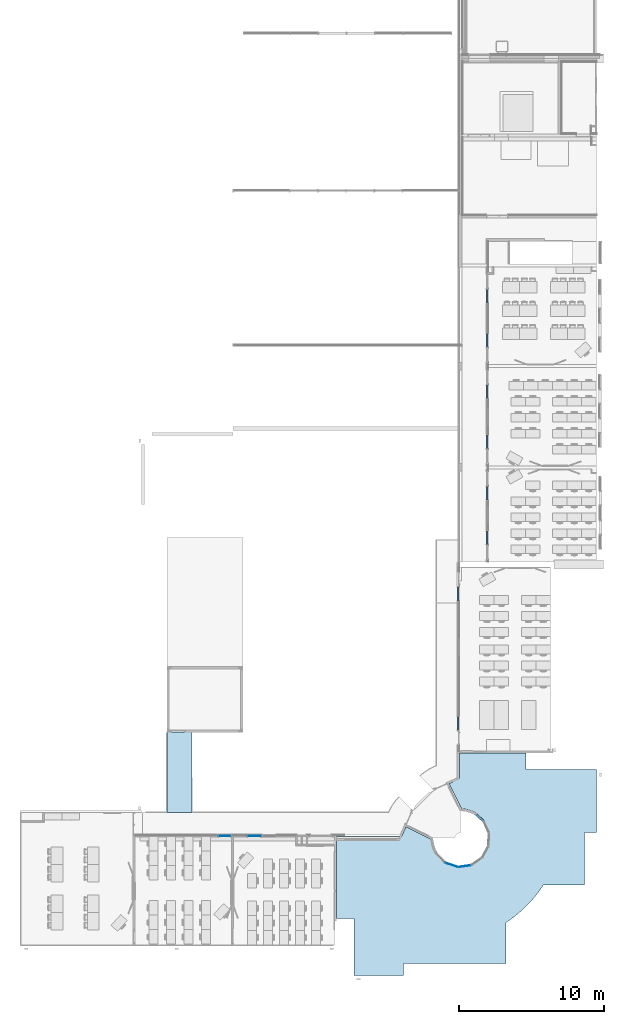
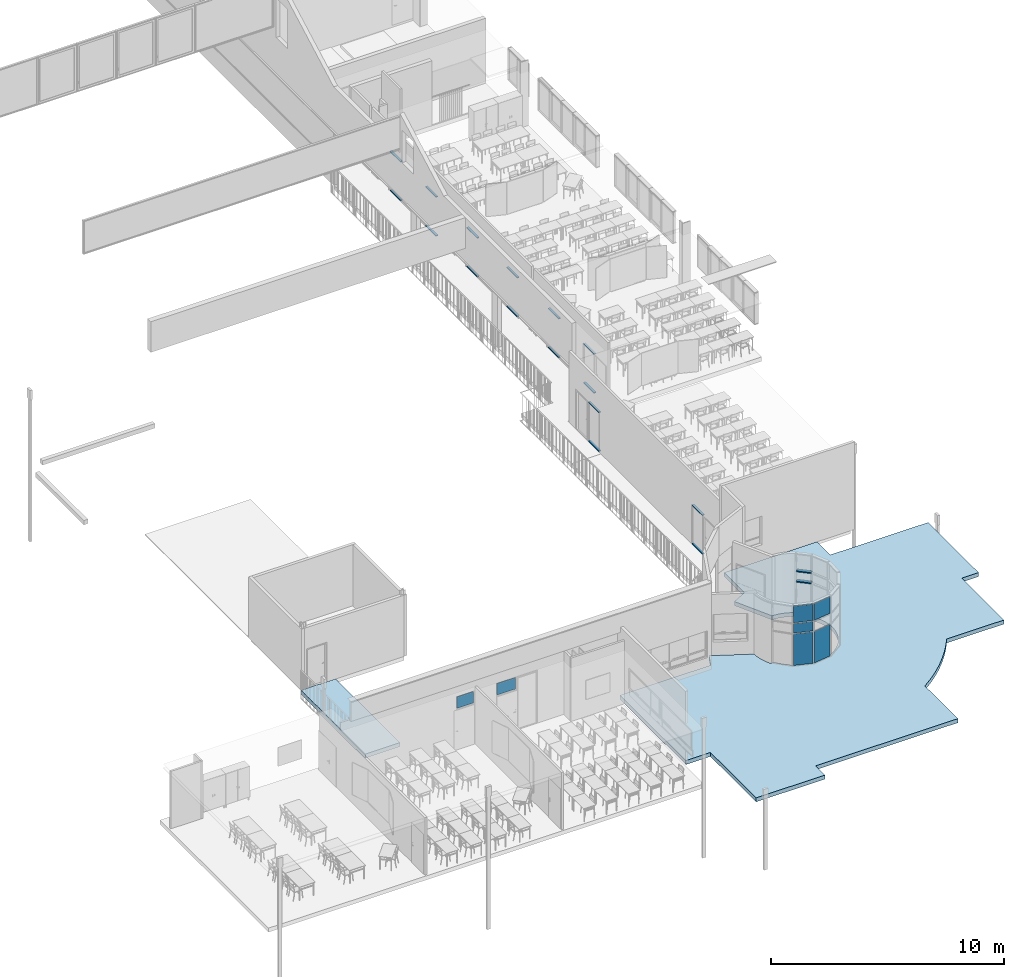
# One storey, part 14 of 44: 18 members, 9 plates, 2 slabs, 13 elements without a shape of their own.
"""IFC2X3 building model written with IfcOpenShell, lengths in centimetres."""

from ifc_helpers import new_model, entity, si_unit, converted_unit, derived_unit, direction, frame, frame_2d, origin, origin_2d_with_axis, place, context, subcontext, project, spatial, polyline, circle_curve, parameter, trimmed, segment, composite_curve, rectangle, outline, extrude, clip, bounded_halfspace, source, transform, mapped, material, layer, layer_set, layer_usage, type_object, type_shapes, element, aggregate, save


model = new_model("IFC2X3")

# Units and contexts
model_context = context("Model", 3, precision=0.001, world=origin(), true_north=direction((6.12303176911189e-17, 1.0)))
body_context = subcontext(model_context, "Body", "Model", "MODEL_VIEW")
ifc_project = project(units=[si_unit("LENGTHUNIT", "METRE", prefix="CENTI"), si_unit("AREAUNIT", "SQUARE_METRE"), si_unit("VOLUMEUNIT", "CUBIC_METRE"), converted_unit("PLANEANGLEUNIT", "DEGREE", entity("IfcRatioMeasure", 0.0174532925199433), si_unit("PLANEANGLEUNIT", "RADIAN"), dimensions=[0, 0, 0, 0, 0, 0, 0]), si_unit("MASSUNIT", "GRAM", prefix="KILO"), si_unit("TIMEUNIT", "SECOND"), si_unit("FREQUENCYUNIT", "HERTZ"), si_unit("THERMODYNAMICTEMPERATUREUNIT", "DEGREE_CELSIUS"), derived_unit("THERMALTRANSMITTANCEUNIT", [(si_unit("MASSUNIT", "GRAM", prefix="KILO"), 1), (si_unit("THERMODYNAMICTEMPERATUREUNIT", "KELVIN"), -1), (si_unit("TIMEUNIT", "SECOND"), -3)]), derived_unit("VOLUMETRICFLOWRATEUNIT", [(si_unit("LENGTHUNIT", "METRE"), 3), (si_unit("TIMEUNIT", "SECOND"), -1)]), si_unit("ELECTRICCURRENTUNIT", "AMPERE"), si_unit("ELECTRICVOLTAGEUNIT", "VOLT"), si_unit("POWERUNIT", "WATT"), si_unit("FORCEUNIT", "NEWTON", prefix="KILO"), si_unit("ILLUMINANCEUNIT", "LUX"), si_unit("LUMINOUSFLUXUNIT", "LUMEN"), si_unit("LUMINOUSINTENSITYUNIT", "CANDELA"), derived_unit("USERDEFINED", [(si_unit("MASSUNIT", "GRAM", prefix="KILO"), -1), (si_unit("LENGTHUNIT", "METRE"), -2), (si_unit("TIMEUNIT", "SECOND"), 3), (si_unit("LUMINOUSFLUXUNIT", "LUMEN"), 1)]), derived_unit("LINEARVELOCITYUNIT", [(si_unit("LENGTHUNIT", "METRE"), 1), (si_unit("TIMEUNIT", "SECOND"), -1)]), si_unit("PRESSUREUNIT", "PASCAL"), derived_unit("USERDEFINED", [(si_unit("LENGTHUNIT", "METRE"), -2), (si_unit("MASSUNIT", "GRAM", prefix="KILO"), 1), (si_unit("TIMEUNIT", "SECOND"), -2)])], contexts=[model_context])

# Site, building, storey
site_placement = place(None, frame((8.62739174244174, -249.285249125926, 0.0)))
site = spatial("IfcSite", under=ifc_project, at=site_placement, Name="Default", CompositionType="ELEMENT")
building_placement = place(site_placement, origin())
building = spatial("IfcBuilding", under=site, at=building_placement, CompositionType="ELEMENT")
storey_placement = place(building_placement, frame((0.0, 0.0, 343.0)))
storey = spatial("IfcBuildingStorey", under=building, at=storey_placement, Name="R+1", CompositionType="ELEMENT", Elevation=343.0)

# Curtain wall, members
curtain_wall_type_1 = type_object("IfcCurtainWallType", Name="Mur-rideau:1 m x 1 m - Meneaux", PredefinedType="NOTDEFINED")
curtain_wall_1_placement = place(storey_placement, frame((0.0, 0.0, -343.0)))
curtain_wall_1 = element("IfcCurtainWall", 1, at=curtain_wall_1_placement, inside=storey, type_object=curtain_wall_type_1, Name="Mur-rideau:1 m x 1 m - Meneaux", ObjectType="Mur-rideau:1 m x 1 m - Meneaux")
ifc_material_1 = material(Name="Plastique, blanc opaque")
member_1_placement = place(curtain_wall_1_placement, frame((0.0, 0.0, 343.0)))
member_1 = element("IfcMember", 2, at=member_1_placement, material=ifc_material_1, Name="Mur-rideau:1 m x 1 m - Meneaux:661", ObjectType="Mur-rideau:1 m x 1 m - Meneaux:661", context=body_context, shape_type="Clipping", body=[
    clip(clip(clip(clip(extrude(rectangle(XDim=4.99999999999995, YDim=14.9999999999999, at=frame_2d((0.0, -3.99680288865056e-14), x_axis=(1.0, 0.0))), frame((3149.88515648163, 917.379609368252, 226.0), z_axis=(0.74286989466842, -0.669435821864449, 0.0), x_axis=(0.0, 0.0, -1.0)), (0.0, 0.0, 1.0), 65.897388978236), bounded_halfspace(frame((3191.87727141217, 870.226880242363, 226.0), z_axis=(0.608123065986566, -0.793842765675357, 0.0), x_axis=(0.793842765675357, 0.608123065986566, 0.0)), False, frame((3149.88515648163, 917.379609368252, 226.0), z_axis=(0.74286989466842, -0.669435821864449, 0.0), x_axis=(0.0, 0.0, -1.0)), polyline([(-2.49999999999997, 7.49999999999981), (-2.49999999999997, -6.91731694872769), (0.0, -6.91731694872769), (0.0, 7.49999999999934), (-2.49999999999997, 7.49999999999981)]))), bounded_halfspace(frame((3194.9178867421, 866.257666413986, 226.0), z_axis=(0.793842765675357, 0.608123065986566, 0.0), x_axis=(0.608123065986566, -0.793842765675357, 0.0)), False, frame((3149.88515648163, 917.379609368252, 226.0), z_axis=(0.74286989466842, -0.669435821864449, 0.0), x_axis=(0.0, 0.0, -1.0)), polyline([(-2.49999999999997, -6.91731694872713), (-2.49999999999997, -7.50000000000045), (0.0, -7.49999999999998), (0.0, -6.91731694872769), (-2.49999999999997, -6.91731694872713)]))), bounded_halfspace(frame((3191.87727141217, 870.226880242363, 172.0), z_axis=(0.608123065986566, -0.793842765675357, 0.0), x_axis=(0.793842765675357, 0.608123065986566, 0.0)), False, frame((3149.88515648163, 917.379609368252, 226.0), z_axis=(0.74286989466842, -0.669435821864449, 0.0), x_axis=(0.0, 0.0, -1.0)), polyline([(2.49999999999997, -6.9173169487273), (2.49999999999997, 7.49999999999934), (0.0, 7.49999999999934), (0.0, -6.91731694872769), (2.49999999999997, -6.9173169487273)]))), bounded_halfspace(frame((3194.9178867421, 866.257666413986, 172.0), z_axis=(0.793842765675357, 0.608123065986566, 0.0), x_axis=(0.608123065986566, -0.793842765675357, 0.0)), False, frame((3149.88515648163, 917.379609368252, 226.0), z_axis=(0.74286989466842, -0.669435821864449, 0.0), x_axis=(0.0, 0.0, -1.0)), polyline([(0.0, -7.50000000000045), (2.49999999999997, -7.50000000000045), (2.49999999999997, -6.91731694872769), (0.0, -6.91731694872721), (0.0, -7.50000000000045)]))),
])
member_2_placement = place(curtain_wall_1_placement, frame((0.0, 0.0, 343.0)))
member_2 = element("IfcMember", 3, at=member_2_placement, material=ifc_material_1, Name="Mur-rideau:1 m x 1 m - Meneaux:661", ObjectType="Mur-rideau:1 m x 1 m - Meneaux:661", context=body_context, shape_type="Clipping", body=[
    clip(clip(clip(clip(extrude(rectangle(XDim=4.99999999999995, YDim=14.9999999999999, at=frame_2d((0.0, -3.99680288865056e-14), x_axis=(1.0, 0.0))), frame((3149.88515648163, 917.379609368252, 172.0), z_axis=(0.74286989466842, -0.669435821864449, 0.0), x_axis=(0.0, 0.0, -1.0)), (0.0, 0.0, 1.0), 65.897388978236), bounded_halfspace(frame((3191.87727141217, 870.226880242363, 172.0), z_axis=(0.608123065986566, -0.793842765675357, 0.0), x_axis=(0.793842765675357, 0.608123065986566, 0.0)), False, frame((3149.88515648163, 917.379609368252, 172.0), z_axis=(0.74286989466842, -0.669435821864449, 0.0), x_axis=(0.0, 0.0, -1.0)), polyline([(-2.49999999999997, 7.49999999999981), (-2.49999999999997, -6.91731694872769), (0.0, -6.91731694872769), (0.0, 7.49999999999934), (-2.49999999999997, 7.49999999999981)]))), bounded_halfspace(frame((3194.9178867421, 866.257666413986, 172.0), z_axis=(0.793842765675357, 0.608123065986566, 0.0), x_axis=(0.608123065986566, -0.793842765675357, 0.0)), False, frame((3149.88515648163, 917.379609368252, 172.0), z_axis=(0.74286989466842, -0.669435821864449, 0.0), x_axis=(0.0, 0.0, -1.0)), polyline([(-2.49999999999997, -6.91731694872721), (-2.50000000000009, -7.50000000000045), (0.0, -7.49999999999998), (0.0, -6.91731694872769), (-2.49999999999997, -6.91731694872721)]))), bounded_halfspace(frame((3191.87727141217, 870.226880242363, 5.0), z_axis=(0.608123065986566, -0.793842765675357, 0.0), x_axis=(0.793842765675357, 0.608123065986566, 0.0)), False, frame((3149.88515648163, 917.379609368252, 172.0), z_axis=(0.74286989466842, -0.669435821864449, 0.0), x_axis=(0.0, 0.0, -1.0)), polyline([(2.49999999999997, -6.9173169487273), (2.50000000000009, 7.49999999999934), (0.0, 7.49999999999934), (0.0, -6.91731694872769), (2.49999999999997, -6.9173169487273)]))), bounded_halfspace(frame((3194.9178867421, 866.257666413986, 5.0), z_axis=(0.793842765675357, 0.608123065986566, 0.0), x_axis=(0.608123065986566, -0.793842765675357, 0.0)), False, frame((3149.88515648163, 917.379609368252, 172.0), z_axis=(0.74286989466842, -0.669435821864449, 0.0), x_axis=(0.0, 0.0, -1.0)), polyline([(0.0, -7.50000000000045), (2.49999999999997, -7.50000000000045), (2.49999999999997, -6.91731694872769), (0.0, -6.91731694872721), (0.0, -7.50000000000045)]))),
])

curtain_wall_type_2 = type_object("IfcCurtainWallType", Name="Mur-rideau:Simple panneau", PredefinedType="NOTDEFINED")
curtain_wall_2_placement = place(storey_placement, frame((0.0, 0.0, -343.0)))
curtain_wall_2 = element("IfcCurtainWall", 4, at=curtain_wall_2_placement, inside=storey, type_object=curtain_wall_type_2, Name="Mur-rideau:Simple panneau", ObjectType="Mur-rideau:Simple panneau")
member_3_placement = place(curtain_wall_2_placement, frame((0.0, 0.0, 343.0)))
member_3 = element("IfcMember", 5, at=member_3_placement, material=ifc_material_1, Name="Mur-rideau:Simple panneau", ObjectType="Mur-rideau:Simple panneau", context=body_context, shape_type="SweptSolid", body=[
    extrude(rectangle(XDim=4.99999999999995, YDim=10.0000000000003, at=origin_2d_with_axis()), frame((3224.90482780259, 4222.18519336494, 206.0), z_axis=(0.0, -1.0, 0.0), x_axis=(0.0, 0.0, -1.0)), (0.0, 0.0, 1.0), 90.0000000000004),
])
member_4_placement = place(curtain_wall_2_placement, frame((0.0, 0.0, 343.0)))
member_4 = element("IfcMember", 6, at=member_4_placement, material=ifc_material_1, Name="Mur-rideau:Simple panneau", ObjectType="Mur-rideau:Simple panneau", context=body_context, shape_type="SweptSolid", body=[
    extrude(rectangle(XDim=5.0, YDim=10.0000000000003, at=frame_2d((-2.70894418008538e-14, 0.0), x_axis=(1.0, 0.0))), frame((3224.90482780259, 4132.18519336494, 2.49999999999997), z_axis=(0.0, 1.0, 0.0), x_axis=(0.0, 0.0, -1.0)), (0.0, 0.0, 1.0), 90.0000000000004),
])
aggregate(curtain_wall_2, [member_3, member_4])

curtain_wall_3_placement = place(storey_placement, frame((0.0, 0.0, -343.0)))
curtain_wall_3 = element("IfcCurtainWall", 7, at=curtain_wall_3_placement, inside=storey, type_object=curtain_wall_type_2, Name="Mur-rideau:Simple panneau", ObjectType="Mur-rideau:Simple panneau")
member_5_placement = place(curtain_wall_3_placement, frame((0.0, 0.0, 343.0)))
member_5 = element("IfcMember", 8, at=member_5_placement, material=ifc_material_1, Name="Mur-rideau:Simple panneau", ObjectType="Mur-rideau:Simple panneau", context=body_context, shape_type="SweptSolid", body=[
    extrude(rectangle(XDim=4.99999999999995, YDim=10.0000000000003, at=origin_2d_with_axis()), frame((3224.90482780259, 3525.18519336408, 206.0), z_axis=(0.0, -1.0, 0.0), x_axis=(0.0, 0.0, -1.0)), (0.0, 0.0, 1.0), 90.0000000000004),
])
member_6_placement = place(curtain_wall_3_placement, frame((0.0, 0.0, 343.0)))
member_6 = element("IfcMember", 9, at=member_6_placement, material=ifc_material_1, Name="Mur-rideau:Simple panneau", ObjectType="Mur-rideau:Simple panneau", context=body_context, shape_type="SweptSolid", body=[
    extrude(rectangle(XDim=5.0, YDim=10.0000000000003, at=frame_2d((-2.70894418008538e-14, 0.0), x_axis=(1.0, 0.0))), frame((3224.90482780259, 3435.18519336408, 2.49999999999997), z_axis=(0.0, 1.0, 0.0), x_axis=(0.0, 0.0, -1.0)), (0.0, 0.0, 1.0), 90.0000000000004),
])
aggregate(curtain_wall_3, [member_5, member_6])

curtain_wall_4_placement = place(storey_placement, frame((0.0, 0.0, -343.0)))
curtain_wall_4 = element("IfcCurtainWall", 10, at=curtain_wall_4_placement, inside=storey, type_object=curtain_wall_type_2, Name="Mur-rideau:Simple panneau", ObjectType="Mur-rideau:Simple panneau")
member_7_placement = place(curtain_wall_4_placement, frame((0.0, 0.0, 343.0)))
member_7 = element("IfcMember", 11, at=member_7_placement, material=ifc_material_1, Name="Mur-rideau:Simple panneau", ObjectType="Mur-rideau:Simple panneau", context=body_context, shape_type="SweptSolid", body=[
    extrude(rectangle(XDim=4.99999999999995, YDim=10.0000000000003, at=origin_2d_with_axis()), frame((3224.90482780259, 2866.98020806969, 206.0), z_axis=(0.0, -1.0, 0.0), x_axis=(0.0, 0.0, -1.0)), (0.0, 0.0, 1.0), 90.0000000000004),
])
member_8_placement = place(curtain_wall_4_placement, frame((0.0, 0.0, 343.0)))
member_8 = element("IfcMember", 12, at=member_8_placement, material=ifc_material_1, Name="Mur-rideau:Simple panneau", ObjectType="Mur-rideau:Simple panneau", context=body_context, shape_type="SweptSolid", body=[
    extrude(rectangle(XDim=5.0, YDim=10.0000000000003, at=frame_2d((-2.70894418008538e-14, 0.0), x_axis=(1.0, 0.0))), frame((3224.90482780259, 2776.98020806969, 2.49999999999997), z_axis=(0.0, 1.0, 0.0), x_axis=(0.0, 0.0, -1.0)), (0.0, 0.0, 1.0), 90.0000000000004),
])
aggregate(curtain_wall_4, [member_7, member_8])

curtain_wall_5_placement = place(storey_placement, frame((0.0, 0.0, -343.0)))
curtain_wall_5 = element("IfcCurtainWall", 13, at=curtain_wall_5_placement, inside=storey, type_object=curtain_wall_type_2, Name="Mur-rideau:Simple panneau", ObjectType="Mur-rideau:Simple panneau")
member_9_placement = place(curtain_wall_5_placement, frame((0.0, 0.0, 343.0)))
member_9 = element("IfcMember", 14, at=member_9_placement, material=ifc_material_1, Name="Mur-rideau:Simple panneau", ObjectType="Mur-rideau:Simple panneau", context=body_context, shape_type="SweptSolid", body=[
    extrude(rectangle(XDim=4.99999999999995, YDim=10.0000000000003, at=origin_2d_with_axis()), frame((3224.90482780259, 3171.18519336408, 206.0), z_axis=(0.0, -1.0, 0.0), x_axis=(0.0, 0.0, -1.0)), (0.0, 0.0, 1.0), 90.0000000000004),
])
member_10_placement = place(curtain_wall_5_placement, frame((0.0, 0.0, 343.0)))
member_10 = element("IfcMember", 15, at=member_10_placement, material=ifc_material_1, Name="Mur-rideau:Simple panneau", ObjectType="Mur-rideau:Simple panneau", context=body_context, shape_type="SweptSolid", body=[
    extrude(rectangle(XDim=5.0, YDim=10.0000000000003, at=frame_2d((-2.70894418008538e-14, 0.0), x_axis=(1.0, 0.0))), frame((3224.90482780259, 3081.18519336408, 2.49999999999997), z_axis=(0.0, 1.0, 0.0), x_axis=(0.0, 0.0, -1.0)), (0.0, 0.0, 1.0), 90.0000000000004),
])
aggregate(curtain_wall_5, [member_9, member_10])

curtain_wall_6_placement = place(storey_placement, frame((0.0, 0.0, -343.0)))
curtain_wall_6 = element("IfcCurtainWall", 16, at=curtain_wall_6_placement, inside=storey, type_object=curtain_wall_type_2, Name="Mur-rideau:Simple panneau", ObjectType="Mur-rideau:Simple panneau")
member_11_placement = place(curtain_wall_6_placement, frame((0.0, 0.0, 343.0)))
member_11 = element("IfcMember", 17, at=member_11_placement, material=ifc_material_1, Name="Mur-rideau:Simple panneau", ObjectType="Mur-rideau:Simple panneau", context=body_context, shape_type="SweptSolid", body=[
    extrude(rectangle(XDim=4.99999999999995, YDim=10.0000000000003, at=origin_2d_with_axis()), frame((3224.90482780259, 3868.18519336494, 206.0), z_axis=(0.0, -1.0, 0.0), x_axis=(0.0, 0.0, -1.0)), (0.0, 0.0, 1.0), 90.0000000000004),
])
member_12_placement = place(curtain_wall_6_placement, frame((0.0, 0.0, 343.0)))
member_12 = element("IfcMember", 18, at=member_12_placement, material=ifc_material_1, Name="Mur-rideau:Simple panneau", ObjectType="Mur-rideau:Simple panneau", context=body_context, shape_type="SweptSolid", body=[
    extrude(rectangle(XDim=5.0, YDim=10.0000000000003, at=frame_2d((-2.70894418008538e-14, 0.0), x_axis=(1.0, 0.0))), frame((3224.90482780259, 3778.18519336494, 2.49999999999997), z_axis=(0.0, 1.0, 0.0), x_axis=(0.0, 0.0, -1.0)), (0.0, 0.0, 1.0), 90.0000000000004),
])
aggregate(curtain_wall_6, [member_11, member_12])

curtain_wall_7_placement = place(storey_placement, frame((0.0, 0.0, -343.0)))
curtain_wall_7 = element("IfcCurtainWall", 19, at=curtain_wall_7_placement, inside=storey, type_object=curtain_wall_type_2, Name="Mur-rideau:Simple panneau", ObjectType="Mur-rideau:Simple panneau")
member_13_placement = place(curtain_wall_7_placement, frame((0.0, 0.0, 343.0)))
member_13 = element("IfcMember", 20, at=member_13_placement, material=ifc_material_1, Name="Mur-rideau:Simple panneau", ObjectType="Mur-rideau:Simple panneau", context=body_context, shape_type="SweptSolid", body=[
    extrude(rectangle(XDim=4.99999999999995, YDim=10.0000000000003, at=origin_2d_with_axis()), frame((3224.90482780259, 4526.48020813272, 206.0), z_axis=(0.0, -1.0, 0.0), x_axis=(0.0, 0.0, -1.0)), (0.0, 0.0, 1.0), 90.0000000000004),
])
member_14_placement = place(curtain_wall_7_placement, frame((0.0, 0.0, 343.0)))
member_14 = element("IfcMember", 21, at=member_14_placement, material=ifc_material_1, Name="Mur-rideau:Simple panneau", ObjectType="Mur-rideau:Simple panneau", context=body_context, shape_type="SweptSolid", body=[
    extrude(rectangle(XDim=5.0, YDim=10.0000000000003, at=frame_2d((-2.70894418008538e-14, 0.0), x_axis=(1.0, 0.0))), frame((3224.90482780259, 4436.48020813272, 2.49999999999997), z_axis=(0.0, 1.0, 0.0), x_axis=(0.0, 0.0, -1.0)), (0.0, 0.0, 1.0), 90.0000000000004),
])
aggregate(curtain_wall_7, [member_13, member_14])

curtain_wall_8_placement = place(storey_placement, frame((0.0, 0.0, -343.0)))
curtain_wall_8 = element("IfcCurtainWall", 22, at=curtain_wall_8_placement, inside=storey, type_object=curtain_wall_type_2, Name="Mur-rideau:Simple panneau", ObjectType="Mur-rideau:Simple panneau")
member_15_placement = place(curtain_wall_8_placement, frame((0.0, 0.0, 343.0)))
member_15 = element("IfcMember", 23, at=member_15_placement, material=ifc_material_1, Name="Mur-rideau:Simple panneau", ObjectType="Mur-rideau:Simple panneau", context=body_context, shape_type="SweptSolid", body=[
    extrude(rectangle(XDim=4.99999999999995, YDim=10.0000000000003, at=frame_2d((0.0, 4.33431068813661e-13), x_axis=(1.0, 0.0))), frame((3024.98509457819, 2478.9805010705, 206.0), z_axis=(0.0, -1.0, 0.0), x_axis=(0.0, 0.0, -1.0)), (0.0, 0.0, 1.0), 90.0000000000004),
])
member_16_placement = place(curtain_wall_8_placement, frame((0.0, 0.0, 343.0)))
member_16 = element("IfcMember", 24, at=member_16_placement, material=ifc_material_1, Name="Mur-rideau:Simple panneau", ObjectType="Mur-rideau:Simple panneau", context=body_context, shape_type="SweptSolid", body=[
    extrude(rectangle(XDim=5.0, YDim=10.0000000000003, at=frame_2d((-2.70894418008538e-14, 0.0), x_axis=(1.0, 0.0))), frame((3024.98509457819, 2388.9805010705, 2.49999999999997), z_axis=(0.0, 1.0, 0.0), x_axis=(0.0, 0.0, -1.0)), (0.0, 0.0, 1.0), 90.0000000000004),
])
aggregate(curtain_wall_8, [member_15, member_16])

curtain_wall_9_placement = place(storey_placement, frame((0.0, 0.0, -343.0)))
curtain_wall_9 = element("IfcCurtainWall", 25, at=curtain_wall_9_placement, inside=storey, type_object=curtain_wall_type_2, Name="Mur-rideau:Simple panneau", ObjectType="Mur-rideau:Simple panneau")
member_17_placement = place(curtain_wall_9_placement, frame((0.0, 0.0, 343.0)))
member_17 = element("IfcMember", 26, at=member_17_placement, material=ifc_material_1, Name="Mur-rideau:Simple panneau", ObjectType="Mur-rideau:Simple panneau", context=body_context, shape_type="SweptSolid", body=[
    extrude(rectangle(XDim=4.99999999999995, YDim=10.0000000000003, at=origin_2d_with_axis()), frame((3024.98509457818, 1591.29782577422, 206.0), z_axis=(0.0, -1.0, 0.0), x_axis=(0.0, 0.0, -1.0)), (0.0, 0.0, 1.0), 90.0000000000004),
])
member_18_placement = place(curtain_wall_9_placement, frame((0.0, 0.0, 343.0)))
member_18 = element("IfcMember", 27, at=member_18_placement, material=ifc_material_1, Name="Mur-rideau:Simple panneau", ObjectType="Mur-rideau:Simple panneau", context=body_context, shape_type="SweptSolid", body=[
    extrude(rectangle(XDim=5.0, YDim=10.0000000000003, at=frame_2d((-2.70894418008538e-14, 0.0), x_axis=(1.0, 0.0))), frame((3024.98509457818, 1501.29782577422, 2.49999999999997), z_axis=(0.0, 1.0, 0.0), x_axis=(0.0, 0.0, -1.0)), (0.0, 0.0, 1.0), 90.0000000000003),
])
aggregate(curtain_wall_9, [member_17, member_18])

# Plate
ifc_material_2 = material(Name="Verre")
plate_type_1 = type_object("IfcPlateType", Name="Vitré", PredefinedType="CURTAIN_PANEL", material=ifc_material_2)
shared_shape_1 = source(origin(), body_context, "Body", "SweptSolid", [
    extrude(rectangle(XDim=4.0, YDim=84.9999999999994, at=frame_2d((0.0, -2.48689957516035e-14), x_axis=(1.0, 0.0))), frame((0.0, -2.50000000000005, 0.0), z_axis=(0.0, 0.0, 1.0), x_axis=(0.0, 1.0, 0.0)), (0.0, 0.0, 1.0), 164.5),
])
type_shapes(plate_type_1, [shared_shape_1])
plate_1_placement = place(curtain_wall_1_placement, frame((2983.07138134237, 572.757245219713, 348.0), z_axis=(0.0, 0.0, 1.0), x_axis=(0.948048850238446, -0.318124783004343, 0.0)))
plate_1 = element("IfcPlate", 28, at=plate_1_placement, type_object=plate_type_1, material=ifc_material_2, Name="Panneau système:Vitré", ObjectType="Vitré", context=body_context, shape_type="MappedRepresentation", body=[
    mapped(shared_shape_1, transform((0.0, 0.0, 0.0), scale=1.0)),
])

plate_2_placement = place(curtain_wall_1_placement, frame((3070.29602214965, 564.701718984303, 348.0), z_axis=(0.0, 0.0, 1.0), x_axis=(0.990276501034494, 0.139113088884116, 0.0)))
plate_2 = element("IfcPlate", 29, at=plate_2_placement, type_object=plate_type_1, material=ifc_material_2, Name="Panneau système:Vitré", ObjectType="Vitré", context=body_context, shape_type="MappedRepresentation", body=[
    mapped(shared_shape_1, transform((0.0, 0.0, 0.0), scale=1.0)),
])

plate_type_2 = type_object("IfcPlateType", Name="Vitré", PredefinedType="CURTAIN_PANEL", material=ifc_material_2)
shared_shape_2 = source(origin(), body_context, "Body", "SweptSolid", [
    extrude(rectangle(XDim=4.0, YDim=84.9999999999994, at=frame_2d((0.0, -2.48689957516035e-14), x_axis=(1.0, 0.0))), frame((0.0, -2.50000000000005, 0.0), z_axis=(0.0, 0.0, 1.0), x_axis=(0.0, 1.0, 0.0)), (0.0, 0.0, 1.0), 49.0),
])
type_shapes(plate_type_2, [shared_shape_2])
plate_3_placement = place(curtain_wall_1_placement, frame((2983.07138134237, 572.757245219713, 517.5), z_axis=(0.0, 0.0, 1.0), x_axis=(0.948048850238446, -0.318124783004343, 0.0)))
plate_3 = element("IfcPlate", 30, at=plate_3_placement, type_object=plate_type_2, material=ifc_material_2, Name="Panneau système:Vitré", ObjectType="Vitré", context=body_context, shape_type="MappedRepresentation", body=[
    mapped(shared_shape_2, transform((0.0, 0.0, 0.0), scale=1.0)),
])

ifc_material_3 = material(Name="Par défaut")
plate_type_3 = type_object("IfcPlateType", Name="Plein", PredefinedType="CURTAIN_PANEL", material=ifc_material_3)
shared_shape_3 = source(origin(), body_context, "Body", "SweptSolid", [
    extrude(rectangle(XDim=4.0, YDim=84.9999999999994, at=frame_2d((0.0, -2.48689957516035e-14), x_axis=(1.0, 0.0))), frame((0.0, -2.50000000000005, 0.0), z_axis=(0.0, 0.0, 1.0), x_axis=(0.0, 1.0, 0.0)), (0.0, 0.0, 1.0), 86.5),
])
type_shapes(plate_type_3, [shared_shape_3])
plate_4_placement = place(curtain_wall_1_placement, frame((2983.07138134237, 572.757245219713, 571.5), z_axis=(0.0, 0.0, 1.0), x_axis=(0.948048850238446, -0.318124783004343, 0.0)))
plate_4 = element("IfcPlate", 31, at=plate_4_placement, type_object=plate_type_3, material=ifc_material_3, Name="Panneau système:Plein", ObjectType="Plein", context=body_context, shape_type="MappedRepresentation", body=[
    mapped(shared_shape_3, transform((0.0, 0.0, 0.0), scale=1.0)),
])

plate_5_placement = place(curtain_wall_1_placement, frame((3070.29602214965, 564.701718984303, 571.5), z_axis=(0.0, 0.0, 1.0), x_axis=(0.990276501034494, 0.139113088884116, 0.0)))
plate_5 = element("IfcPlate", 32, at=plate_5_placement, type_object=plate_type_3, material=ifc_material_3, Name="Panneau système:Plein", ObjectType="Plein", context=body_context, shape_type="MappedRepresentation", body=[
    mapped(shared_shape_3, transform((0.0, 0.0, 0.0), scale=1.0)),
])

aggregate(curtain_wall_1, [plate_1, plate_2, plate_3, plate_4, plate_5, member_1, member_2])

# Curtain wall, plate
curtain_wall_10_placement = place(storey_placement, frame((0.0, 0.0, -343.0)))
curtain_wall_10 = element("IfcCurtainWall", 33, at=curtain_wall_10_placement, inside=storey, type_object=curtain_wall_type_2, Name="Mur-rideau:Simple panneau", ObjectType="Mur-rideau:Simple panneau")
plate_type_4 = type_object("IfcPlateType", Name="Vitré", PredefinedType="CURTAIN_PANEL", material=ifc_material_2)
shared_shape_4 = source(origin(), body_context, "Body", "SweptSolid", [
    extrude(rectangle(XDim=4.0, YDim=81.9506441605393, at=frame_2d((-4.44089209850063e-16, 0.0), x_axis=(1.0, 0.0))), frame((0.0, 2.50000000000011, 0.0), z_axis=(0.0, 0.0, 1.0), x_axis=(0.0, 1.0, 0.0)), (0.0, 0.0, 1.0), 59.4999999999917),
])
type_shapes(plate_type_4, [shared_shape_4])
plate_6_placement = place(curtain_wall_10_placement, frame((1422.9301498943, 772.998568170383, 556.499999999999), z_axis=(0.0, 0.0, 1.0), x_axis=(-1.0, 0.0, 0.0)))
plate_6 = element("IfcPlate", 34, at=plate_6_placement, type_object=plate_type_4, material=ifc_material_2, Name="Panneau système:Vitré", ObjectType="Vitré", context=body_context, shape_type="MappedRepresentation", body=[
    mapped(shared_shape_4, transform((0.0, 0.0, 0.0), scale=1.0)),
])
aggregate(curtain_wall_10, [plate_6])

curtain_wall_11_placement = place(storey_placement, frame((0.0, 0.0, -343.0)))
curtain_wall_11 = element("IfcCurtainWall", 35, at=curtain_wall_11_placement, inside=storey, type_object=curtain_wall_type_2, Name="Mur-rideau:Simple panneau", ObjectType="Mur-rideau:Simple panneau")
plate_7_placement = place(curtain_wall_11_placement, frame((1422.9301498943, 772.998568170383, 556.499999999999), z_axis=(0.0, 0.0, 1.0), x_axis=(-1.0, 0.0, 0.0)))
plate_7 = element("IfcPlate", 36, at=plate_7_placement, type_object=plate_type_4, material=ifc_material_2, Name="Panneau système:Vitré", ObjectType="Vitré", context=body_context, shape_type="MappedRepresentation", body=[
    mapped(shared_shape_4, transform((0.0, 0.0, 0.0), scale=1.0)),
])
aggregate(curtain_wall_11, [plate_7])

curtain_wall_12_placement = place(storey_placement, frame((0.0, 0.0, -343.0)))
curtain_wall_12 = element("IfcCurtainWall", 37, at=curtain_wall_12_placement, inside=storey, type_object=curtain_wall_type_2, Name="Mur-rideau:Simple panneau", ObjectType="Mur-rideau:Simple panneau")
plate_type_5 = type_object("IfcPlateType", Name="Vitré", PredefinedType="CURTAIN_PANEL", material=ifc_material_2)
shared_shape_5 = source(origin(), body_context, "Body", "SweptSolid", [
    extrude(rectangle(XDim=4.0, YDim=91.9999999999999, at=origin_2d_with_axis()), frame((0.0, -2.5, 0.0), z_axis=(0.0, 0.0, 1.0), x_axis=(0.0, 1.0, 0.0)), (0.0, 0.0, 1.0), 59.4999999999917),
])
type_shapes(plate_type_5, [shared_shape_5])
plate_8_placement = place(curtain_wall_12_placement, frame((1626.90482780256, 772.99856817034, 556.499999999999)))
plate_8 = element("IfcPlate", 38, at=plate_8_placement, type_object=plate_type_5, material=ifc_material_2, Name="Panneau système:Vitré", ObjectType="Vitré", context=body_context, shape_type="MappedRepresentation", body=[
    mapped(shared_shape_5, transform((0.0, 0.0, 0.0), scale=1.0)),
])
aggregate(curtain_wall_12, [plate_8])

curtain_wall_13_placement = place(storey_placement, frame((0.0, 0.0, -343.0)))
curtain_wall_13 = element("IfcCurtainWall", 39, at=curtain_wall_13_placement, inside=storey, type_object=curtain_wall_type_2, Name="Mur-rideau:Simple panneau", ObjectType="Mur-rideau:Simple panneau")
plate_9_placement = place(curtain_wall_13_placement, frame((1626.90482780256, 772.99856817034, 556.499999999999)))
plate_9 = element("IfcPlate", 40, at=plate_9_placement, type_object=plate_type_5, material=ifc_material_2, Name="Panneau système:Vitré", ObjectType="Vitré", context=body_context, shape_type="MappedRepresentation", body=[
    mapped(shared_shape_5, transform((0.0, 0.0, 0.0), scale=1.0)),
])
aggregate(curtain_wall_13, [plate_9])

# Slabs
ifc_material_4 = material(Name="Maçonnerie - Béton")
ifc_layer = layer(ifc_material_4, 21.0)
ifc_layer_set = layer_set([ifc_layer], Name="Sol:Béton 160 mm avec platelage métallique 50 mm")
ifc_layer_usage_1 = layer_usage(ifc_layer_set, "AXIS3", "POSITIVE", 0.0)
slab_1_placement = place(storey_placement, origin())
element("IfcSlab", 41, at=slab_1_placement, inside=storey, material=ifc_layer_usage_1, Name="Sol:Béton 160 mm avec platelage métallique 50 mm", ObjectType="Sol:Béton 160 mm avec platelage métallique 50 mm", PredefinedType="FLOOR", context=body_context, shape_type="SweptSolid", body=[
    extrude(rectangle(XDim=551.00113155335, YDim=170.998290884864, at=frame_2d((-5.6843418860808e-14, 0.0), x_axis=(1.0, 0.0))), frame((1109.40397324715, 1208.50056577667, 0.0), z_axis=(0.0, 0.0, -1.0), x_axis=(0.0, 1.0, 0.0)), (0.0, 0.0, 1.0), 21.0),
])
ifc_layer_usage_2 = layer_usage(ifc_layer_set, "AXIS3", "POSITIVE", 0.0)
slab_2_placement = place(storey_placement, origin())
element("IfcSlab", 42, at=slab_2_placement, inside=storey, material=ifc_layer_usage_2, Name="Sol:Béton 160 mm avec platelage métallique 50 mm", ObjectType="Sol:Béton 160 mm avec platelage métallique 50 mm", PredefinedType="FLOOR", context=body_context, shape_type="SweptSolid", body=[
    extrude(outline(composite_curve([segment(polyline([(-453.353775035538, -874.044658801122), (111.2509433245, -874.044658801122)]), True, "CONTINUOUS"), segment(polyline([(111.2509433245, -874.044658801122), (111.250943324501, -424.448161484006)]), True, "CONTINUOUS"), segment(polyline([(111.250943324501, -424.448161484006), (176.380347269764, -395.450682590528)]), True, "CONTINUOUS"), segment(polyline([(176.380347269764, -395.450682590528), (90.0799584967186, -222.096654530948)]), True, "CONTINUOUS"), segment(trimmed(circle_curve(frame_2d((96.2770922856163, -19.1912688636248), x_axis=(-0.0305277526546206, -0.99953391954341)), 203.000000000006), [parameter(330.869526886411)], [parameter(0.0)], True, "PARAMETER"), False, "CONTINUOUS"), segment(polyline([(-7.91053575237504, -193.415085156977), (-0.211942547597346, -180.541404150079)]), True, "CONTINUOUS"), segment(trimmed(circle_curve(frame_2d((96.2770922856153, -19.1912688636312), x_axis=(-0.513239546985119, -0.858245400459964)), 188.0), [parameter(152.380840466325)], [parameter(0.0)], True, "PARAMETER"), False, "CONTINUOUS"), segment(polyline([(256.57175585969, 79.0412147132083), (269.361223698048, 86.878912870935)]), True, "CONTINUOUS"), segment(trimmed(circle_curve(frame_2d((96.2770922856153, -19.1912688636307), x_axis=(0.852631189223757, 0.522513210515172)), 203.0), [parameter(330.248399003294)], [parameter(0.0)], True, "PARAMETER"), False, "CONTINUOUS"), segment(polyline([(299.182477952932, -12.9941350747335), (472.533723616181, -99.2931386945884)]), True, "CONTINUOUS"), segment(polyline([(472.533723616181, -99.2931386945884), (508.499384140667, -28.964392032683)]), True, "CONTINUOUS"), segment(polyline([(508.499384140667, -28.964392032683), (681.645830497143, -28.9643920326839)]), True, "CONTINUOUS"), segment(polyline([(681.645830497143, -28.9643920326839), (681.645830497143, 430.955341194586)]), True, "CONTINUOUS"), segment(polyline([(681.645830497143, 430.955341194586), (568.646224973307, 430.955341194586)]), True, "CONTINUOUS"), segment(polyline([(568.646224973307, 430.955341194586), (568.646224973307, 915.955341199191)]), True, "CONTINUOUS"), segment(polyline([(568.646224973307, 915.955341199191), (136.646224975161, 915.955341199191)]), True, "CONTINUOUS"), segment(polyline([(136.646224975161, 915.955341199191), (136.646224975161, 832.955341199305)]), True, "CONTINUOUS"), segment(polyline([(136.646224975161, 832.955341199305), (-225.353775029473, 832.955341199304)]), True, "CONTINUOUS"), segment(polyline([(-225.353775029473, 832.955341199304), (-225.353775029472, 548.873141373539)]), True, "CONTINUOUS"), segment(trimmed(circle_curve(frame_2d((241.570541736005, -176.125396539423), x_axis=(-0.54145799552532, 0.840727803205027)), 862.346332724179), [parameter(0.0)], [parameter(24.2635244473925)], True, "PARAMETER"), True, "CONTINUOUS"), segment(polyline([(-482.034640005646, 292.955341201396), (-765.353775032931, 292.955341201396)]), True, "CONTINUOUS"), segment(polyline([(-765.353775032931, 292.955341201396), (-765.353775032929, -411.04465880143)]), True, "CONTINUOUS"), segment(polyline([(-765.353775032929, -411.04465880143), (-845.353775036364, -411.04465880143)]), True, "CONTINUOUS"), segment(polyline([(-845.353775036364, -411.04465880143), (-845.353775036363, -752.044658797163)]), True, "CONTINUOUS"), segment(polyline([(-845.353775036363, -752.044658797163), (-453.353775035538, -752.044658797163)]), True, "CONTINUOUS"), segment(polyline([(-453.353775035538, -752.044658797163), (-453.353775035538, -874.044658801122)]), True, "CONTINUOUS")], self_intersect=False)), frame((3062.94948661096, 657.333983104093, 0.0), z_axis=(0.0, 0.0, -1.0), x_axis=(0.0, 1.0, 0.0)), (0.0, 0.0, 1.0), 21.0),
])

save(model, "model.ifc")
